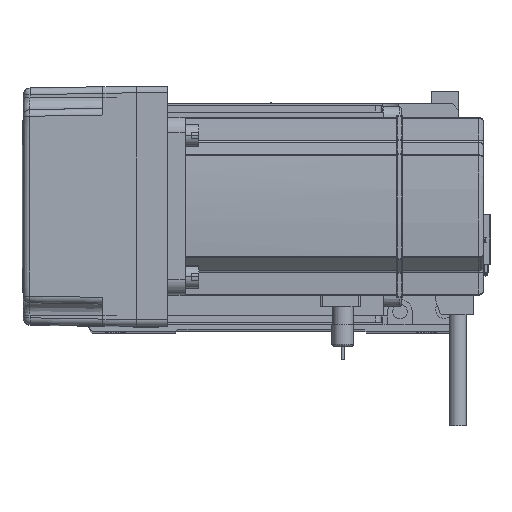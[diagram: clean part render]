
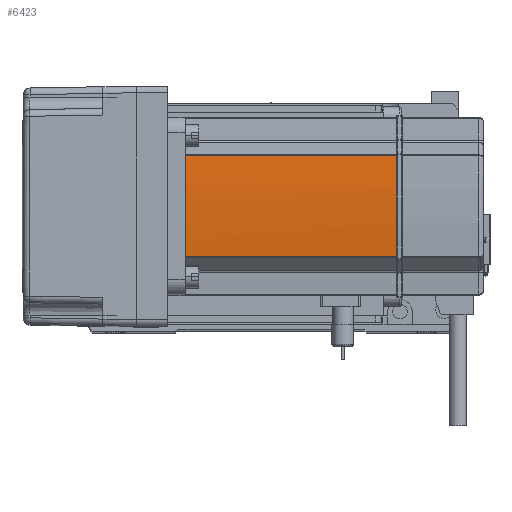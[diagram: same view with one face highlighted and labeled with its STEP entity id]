
A CAD part, top view. The second image highlights one B-rep face of the part: STEP entity #6423.
In plain terms, the highlighted cylindrical face has radius 270 mm (diameter 540 mm), a partial arc.
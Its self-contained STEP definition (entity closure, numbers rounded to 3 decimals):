
#2959 = CARTESIAN_POINT ( 'NONE',  ( 40., -0.127, 134. ) ) ;
#4259 = CARTESIAN_POINT ( 'NONE',  ( 39.042, -22.724, 134. ) ) ;
#4946 = EDGE_CURVE ( 'NONE', #27449, #47094, #16779, .T. ) ;
#5457 = DIRECTION ( 'NONE',  ( -1., 0., 0. ) ) ;
#5843 = ORIENTED_EDGE ( 'NONE', *, *, #13180, .F. ) ;
#6203 = AXIS2_PLACEMENT_3D ( 'NONE', #18287, #48360, #39321 ) ;
#6423 = ADVANCED_FACE ( 'NONE', ( #48342 ), #29521, .T. ) ;
#7159 = CARTESIAN_POINT ( 'NONE',  ( 40., 0.127, 134. ) ) ;
#9397 = VECTOR ( 'NONE', #40529, 1000. ) ;
#10917 = DIRECTION ( 'NONE',  ( -1., 0., 0. ) ) ;
#12955 = DIRECTION ( 'NONE',  ( -1., 0., 0. ) ) ;
#13180 = EDGE_CURVE ( 'NONE', #16548, #52381, #20864, .T. ) ;
#15568 = LINE ( 'NONE', #16795, #40476 ) ;
#16548 = VERTEX_POINT ( 'NONE', #46761 ) ;
#16779 = CIRCLE ( 'NONE', #6203, 270. ) ;
#16795 = CARTESIAN_POINT ( 'NONE',  ( 39.042, -22.724, 58. ) ) ;
#18287 = CARTESIAN_POINT ( 'NONE',  ( -230., 0., 134. ) ) ;
#18898 = CARTESIAN_POINT ( 'NONE',  ( 39.042, 22.724, 58. ) ) ;
#19078 = B_SPLINE_CURVE_WITH_KNOTS ( 'NONE', 3,
 ( #40385, #53873, #40568, #44715 ),
 .UNSPECIFIED., .F., .F.,
 ( 4, 4 ),
 ( 0., 1. ),
 .UNSPECIFIED. ) ;
#19237 = DIRECTION ( 'NONE',  ( 0., 0., -1. ) ) ;
#20864 = CIRCLE ( 'NONE', #44795, 270. ) ;
#22998 = EDGE_LOOP ( 'NONE', ( #40204, #5843, #49631, #54147, #23583, #39531 ) ) ;
#23583 = ORIENTED_EDGE ( 'NONE', *, *, #30140, .F. ) ;
#25762 = AXIS2_PLACEMENT_3D ( 'NONE', #27727, #19237, #10917 ) ;
#27449 = VERTEX_POINT ( 'NONE', #32886 ) ;
#27727 = CARTESIAN_POINT ( 'NONE',  ( -230., 0., 58. ) ) ;
#29521 = CYLINDRICAL_SURFACE ( 'NONE', #25762, 270. ) ;
#29994 = DIRECTION ( 'NONE',  ( 0., 0., -1. ) ) ;
#30130 = DIRECTION ( 'NONE',  ( 0., 0., -1. ) ) ;
#30140 = EDGE_CURVE ( 'NONE', #37887, #47094, #19078, .T. ) ;
#32886 = CARTESIAN_POINT ( 'NONE',  ( 39.042, 22.724, 134. ) ) ;
#33872 = CIRCLE ( 'NONE', #43096, 270. ) ;
#35935 = DIRECTION ( 'NONE',  ( 0., 0., -1. ) ) ;
#37887 = VERTEX_POINT ( 'NONE', #2959 ) ;
#38181 = EDGE_CURVE ( 'NONE', #16548, #27449, #38990, .T. ) ;
#38947 = CARTESIAN_POINT ( 'NONE',  ( -230., 0., 39. ) ) ;
#38990 = LINE ( 'NONE', #18898, #9397 ) ;
#39321 = DIRECTION ( 'NONE',  ( -1., 0., 0. ) ) ;
#39531 = ORIENTED_EDGE ( 'NONE', *, *, #41807, .T. ) ;
#40204 = ORIENTED_EDGE ( 'NONE', *, *, #46685, .T. ) ;
#40385 = CARTESIAN_POINT ( 'NONE',  ( 40., -0.127, 134. ) ) ;
#40476 = VECTOR ( 'NONE', #29994, 1000. ) ;
#40529 = DIRECTION ( 'NONE',  ( 0., 0., 1. ) ) ;
#40568 = CARTESIAN_POINT ( 'NONE',  ( 40., 0.042, 134. ) ) ;
#41807 = EDGE_CURVE ( 'NONE', #37887, #42955, #33872, .T. ) ;
#42955 = VERTEX_POINT ( 'NONE', #4259 ) ;
#43096 = AXIS2_PLACEMENT_3D ( 'NONE', #47406, #30130, #12955 ) ;
#44715 = CARTESIAN_POINT ( 'NONE',  ( 40., 0.127, 134. ) ) ;
#44795 = AXIS2_PLACEMENT_3D ( 'NONE', #38947, #35935, #5457 ) ;
#46685 = EDGE_CURVE ( 'NONE', #42955, #52381, #15568, .T. ) ;
#46761 = CARTESIAN_POINT ( 'NONE',  ( 39.042, 22.724, 39. ) ) ;
#47094 = VERTEX_POINT ( 'NONE', #7159 ) ;
#47406 = CARTESIAN_POINT ( 'NONE',  ( -230., 0., 134. ) ) ;
#48342 = FACE_OUTER_BOUND ( 'NONE', #22998, .T. ) ;
#48360 = DIRECTION ( 'NONE',  ( 0., 0., -1. ) ) ;
#49631 = ORIENTED_EDGE ( 'NONE', *, *, #38181, .T. ) ;
#49954 = CARTESIAN_POINT ( 'NONE',  ( 39.042, -22.724, 39. ) ) ;
#52381 = VERTEX_POINT ( 'NONE', #49954 ) ;
#53873 = CARTESIAN_POINT ( 'NONE',  ( 40., -0.042, 134. ) ) ;
#54147 = ORIENTED_EDGE ( 'NONE', *, *, #4946, .T. ) ;
